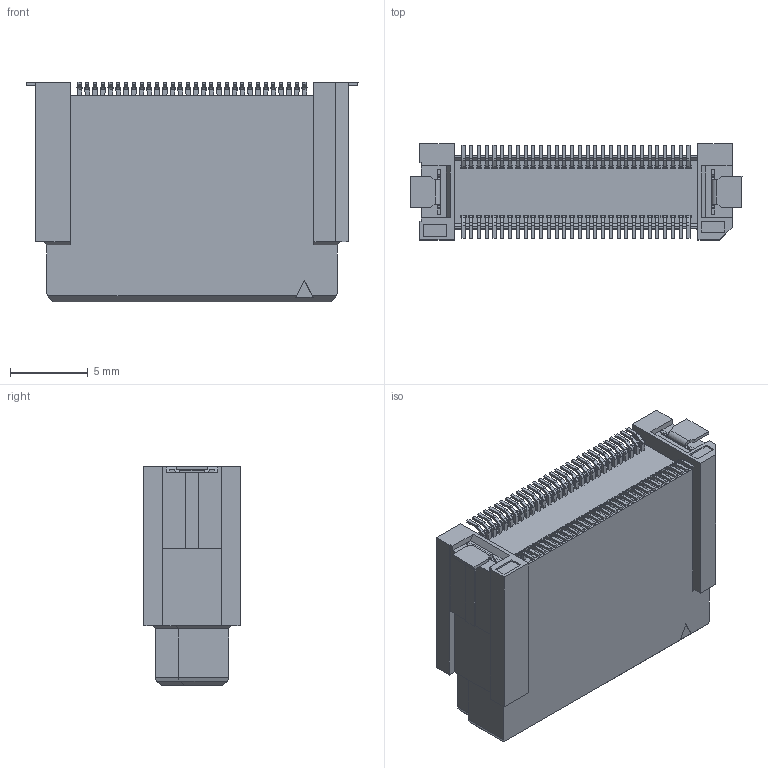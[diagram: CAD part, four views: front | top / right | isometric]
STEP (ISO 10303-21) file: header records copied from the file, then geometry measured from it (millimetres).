
FILE_DESCRIPTION(('Creo Elements/Direct Modeling STEP Export'),'2;1');
FILE_NAME('P3D387_DT10-060S-16-T.stp','2022-03-17T18:25:01',(''),(''),'Creo Elements/Direct Modeling STEP processor for AP214 (Solid Model)','Creo Elements/Direct Modeling 20.2 28-Feb-2019 (C) Parametric Technology GmbH','');
FILE_SCHEMA(('AUTOMOTIVE_DESIGN { 1 0 10303 214 1 1 1 1 }'));
Products named in the file (2): DT10-060S-16-T
Assembly tree (1 placements, depth 2):
  DT10-060S-16-T
    DT10-060S-16-T
Bounding box: 21.4 x 6.2 x 14.18 mm (x, y, z)
Volume: 1217.1 mm3; surface area: 1193.5 mm2
Topology: 1 solids, 1 shells, 1838 faces, 5186 edges, 3416 vertices
Faces by surface type: plane 1466, cylinder 372
Entity records: 58591 total; most frequent: ORIENTED_EDGE 10372, CARTESIAN_POINT 10309, DIRECTION 9593, EDGE_CURVE 5186, VECTOR 4193, LINE 4193, VERTEX_POINT 3416, AXIS2_PLACEMENT_3D 2700
